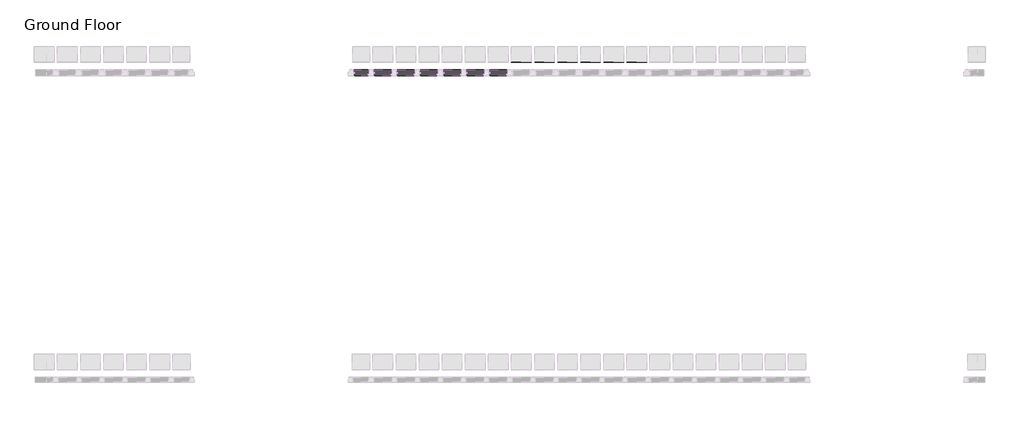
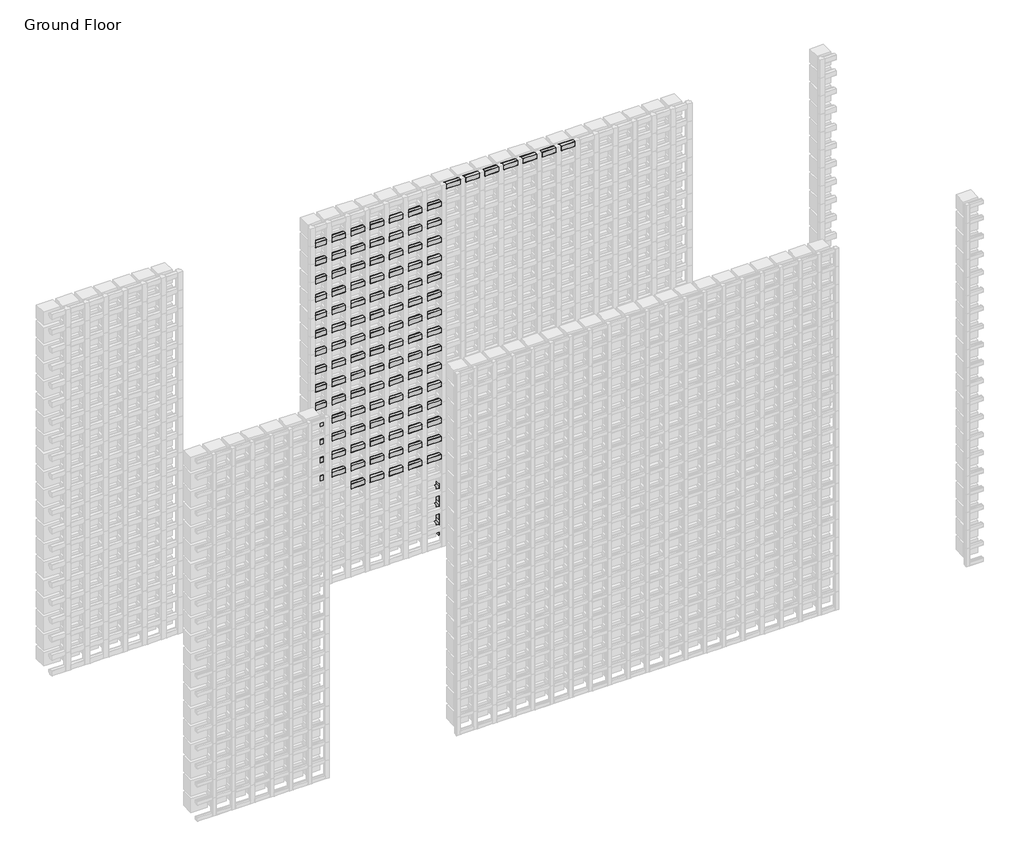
# One storey, part 120 of 350: 122 members, 20 plates.
"""IFC4 building model written with IfcOpenShell, lengths in millimetres."""

from ifc_helpers import new_model, si_unit, origin, place, context, project, spatial, transform, mapped, element, save
from components import rectangular_mullion_84e0df2e, rectangular_mullion_dacc5c26, rectangular_mullion_71680797, rectangular_mullion_196cc38a, rectangular_mullion_c1c7f7ba, empty_system_panel_empty_5a3607ba, empty_system_panel_empty_5e80e148

model = new_model("IFC4")

# Units and contexts
model_context = context("Model", 3, world=origin())
ifc_project = project(units=[si_unit("LENGTHUNIT", "METRE", prefix="MILLI")], contexts=[model_context])

# Site, building, storey
site = spatial("IfcSite", under=ifc_project)
building = spatial("IfcBuilding", under=site)
storey = spatial("IfcBuildingStorey", under=building, Name="Ground Floor", Elevation=0.0)

# Members
placement = place(None, origin())
rectangular_mullion_shape = rectangular_mullion_84e0df2e(model_context)
element("IfcMember", 1, ObjectType="Rectangular Mullion : Batten_Timber_Modinex_Austratus_Grid_Fin_40x40_Blackbutt", at=placement, inside=storey, context=model_context, shape_type="MappedRepresentation", body=[
    mapped(rectangular_mullion_shape, transform((7116.4361642, 44968.2978302, 0.0), x_axis=(1.0, 0.0, 0.0), y_axis=(0.0, -1.0, 0.0), z_axis=(0.0, 0.0, -1.0))),
])
element("IfcMember", 2, ObjectType="Rectangular Mullion : Batten_Timber_Modinex_Austratus_Grid_Fin_40x40_Blackbutt", at=placement, inside=storey, context=model_context, shape_type="MappedRepresentation", body=[
    mapped(rectangular_mullion_shape, transform((7266.4361642, 44968.2978302, 0.0), x_axis=(1.0, 0.0, 0.0), y_axis=(0.0, -1.0, 0.0), z_axis=(0.0, 0.0, -1.0))),
])
element("IfcMember", 3, ObjectType="Rectangular Mullion : Batten_Timber_Modinex_Austratus_Grid_Fin_40x40_Blackbutt", at=placement, inside=storey, context=model_context, shape_type="MappedRepresentation", body=[
    mapped(rectangular_mullion_shape, transform((7416.4361642, 44968.2978302, 0.0), x_axis=(1.0, 0.0, 0.0), y_axis=(0.0, -1.0, 0.0), z_axis=(0.0, 0.0, -1.0))),
])
element("IfcMember", 4, ObjectType="Rectangular Mullion : Batten_Timber_Modinex_Austratus_Grid_Fin_40x40_Blackbutt", at=placement, inside=storey, context=model_context, shape_type="MappedRepresentation", body=[
    mapped(rectangular_mullion_shape, transform((7566.4361642, 44968.2978302, 0.0), x_axis=(1.0, 0.0, 0.0), y_axis=(0.0, -1.0, 0.0), z_axis=(0.0, 0.0, -1.0))),
])
element("IfcMember", 5, ObjectType="Rectangular Mullion : Batten_Timber_Modinex_Austratus_Grid_Fin_40x40_Blackbutt", at=placement, inside=storey, context=model_context, shape_type="MappedRepresentation", body=[
    mapped(rectangular_mullion_shape, transform((7716.4361642, 44968.2978302, 0.0), x_axis=(1.0, 0.0, 0.0), y_axis=(0.0, -1.0, 0.0), z_axis=(0.0, 0.0, -1.0))),
])
element("IfcMember", 6, ObjectType="Rectangular Mullion : Batten_Timber_Modinex_Austratus_Grid_Fin_40x40_Blackbutt", at=placement, inside=storey, context=model_context, shape_type="MappedRepresentation", body=[
    mapped(rectangular_mullion_shape, transform((7866.4361642, 44968.2978302, 0.0), x_axis=(1.0, 0.0, 0.0), y_axis=(0.0, -1.0, 0.0), z_axis=(0.0, 0.0, -1.0))),
])
rectangular_mullion_2_shape = rectangular_mullion_dacc5c26(model_context)
element("IfcMember", 7, ObjectType="Rectangular Mullion : Batten_Timber_Modinex_Austratus_Grid_Fin_40x40_Blackbutt", at=placement, inside=storey, context=model_context, shape_type="MappedRepresentation", body=[
    mapped(rectangular_mullion_2_shape, transform((7096.4361642, 44968.2978302, 3000.0), x_axis=(0.0, 0.0, 1.0), y_axis=(0.0, -1.0, 0.0), z_axis=(1.0, 0.0, 0.0))),
])
element("IfcMember", 8, ObjectType="Rectangular Mullion : Batten_Timber_Modinex_Austratus_Grid_Fin_40x40_Blackbutt", at=placement, inside=storey, context=model_context, shape_type="MappedRepresentation", body=[
    mapped(rectangular_mullion_2_shape, transform((7246.4361642, 44968.2978302, 3000.0), x_axis=(0.0, 0.0, 1.0), y_axis=(0.0, -1.0, 0.0), z_axis=(1.0, 0.0, 0.0))),
])
element("IfcMember", 9, ObjectType="Rectangular Mullion : Batten_Timber_Modinex_Austratus_Grid_Fin_40x40_Blackbutt", at=placement, inside=storey, context=model_context, shape_type="MappedRepresentation", body=[
    mapped(rectangular_mullion_2_shape, transform((7396.4361642, 44968.2978302, 3000.0), x_axis=(0.0, 0.0, 1.0), y_axis=(0.0, -1.0, 0.0), z_axis=(1.0, 0.0, 0.0))),
])
element("IfcMember", 10, ObjectType="Rectangular Mullion : Batten_Timber_Modinex_Austratus_Grid_Fin_40x40_Blackbutt", at=placement, inside=storey, context=model_context, shape_type="MappedRepresentation", body=[
    mapped(rectangular_mullion_2_shape, transform((7546.4361642, 44968.2978302, 3000.0), x_axis=(0.0, 0.0, 1.0), y_axis=(0.0, -1.0, 0.0), z_axis=(1.0, 0.0, 0.0))),
])
element("IfcMember", 11, ObjectType="Rectangular Mullion : Batten_Timber_Modinex_Austratus_Grid_Fin_40x40_Blackbutt", at=placement, inside=storey, context=model_context, shape_type="MappedRepresentation", body=[
    mapped(rectangular_mullion_2_shape, transform((7696.4361642, 44968.2978302, 3000.0), x_axis=(0.0, 0.0, 1.0), y_axis=(0.0, -1.0, 0.0), z_axis=(1.0, 0.0, 0.0))),
])
element("IfcMember", 12, ObjectType="Rectangular Mullion : Batten_Timber_Modinex_Austratus_Grid_Fin_40x40_Blackbutt", at=placement, inside=storey, context=model_context, shape_type="MappedRepresentation", body=[
    mapped(rectangular_mullion_2_shape, transform((7846.4361642, 44968.2978302, 3000.0), x_axis=(0.0, 0.0, 1.0), y_axis=(0.0, -1.0, 0.0), z_axis=(1.0, 0.0, 0.0))),
])
element("IfcMember", 13, ObjectType="Rectangular Mullion : Batten_Timber_Modinex_Austratus_Grid_Fin_40x40_Blackbutt", at=placement, inside=storey, context=model_context, shape_type="MappedRepresentation", body=[
    mapped(rectangular_mullion_2_shape, transform((7996.4361642, 44968.2978302, 3000.0), x_axis=(0.0, 0.0, 1.0), y_axis=(0.0, -1.0, 0.0), z_axis=(1.0, 0.0, 0.0))),
])
rectangular_mullion_3_shape = rectangular_mullion_71680797(model_context)
element("IfcMember", 14, ObjectType="Rectangular Mullion : Batten_Timber_Modinex_Austratus_Grid_Fin_40x40_Blackbutt", at=placement, inside=storey, context=model_context, shape_type="MappedRepresentation", body=[
    mapped(rectangular_mullion_3_shape, transform((7136.4361642, 44968.2978302, 0.0), x_axis=(0.0, 0.0, -1.0), y_axis=(0.0, -1.0, 0.0), z_axis=(-1.0, 0.0, 0.0))),
])
element("IfcMember", 15, ObjectType="Rectangular Mullion : Batten_Timber_Modinex_Austratus_Grid_Fin_40x40_Blackbutt", at=placement, inside=storey, context=model_context, shape_type="MappedRepresentation", body=[
    mapped(rectangular_mullion_3_shape, transform((7286.4361642, 44968.2978302, 0.0), x_axis=(0.0, 0.0, -1.0), y_axis=(0.0, -1.0, 0.0), z_axis=(-1.0, 0.0, 0.0))),
])
element("IfcMember", 16, ObjectType="Rectangular Mullion : Batten_Timber_Modinex_Austratus_Grid_Fin_40x40_Blackbutt", at=placement, inside=storey, context=model_context, shape_type="MappedRepresentation", body=[
    mapped(rectangular_mullion_3_shape, transform((7436.4361642, 44968.2978302, 0.0), x_axis=(0.0, 0.0, -1.0), y_axis=(0.0, -1.0, 0.0), z_axis=(-1.0, 0.0, 0.0))),
])
element("IfcMember", 17, ObjectType="Rectangular Mullion : Batten_Timber_Modinex_Austratus_Grid_Fin_40x40_Blackbutt", at=placement, inside=storey, context=model_context, shape_type="MappedRepresentation", body=[
    mapped(rectangular_mullion_3_shape, transform((7586.4361642, 44968.2978302, 0.0), x_axis=(0.0, 0.0, -1.0), y_axis=(0.0, -1.0, 0.0), z_axis=(-1.0, 0.0, 0.0))),
])
element("IfcMember", 18, ObjectType="Rectangular Mullion : Batten_Timber_Modinex_Austratus_Grid_Fin_40x40_Blackbutt", at=placement, inside=storey, context=model_context, shape_type="MappedRepresentation", body=[
    mapped(rectangular_mullion_3_shape, transform((7736.4361642, 44968.2978302, 0.0), x_axis=(0.0, 0.0, -1.0), y_axis=(0.0, -1.0, 0.0), z_axis=(-1.0, 0.0, 0.0))),
])
element("IfcMember", 19, ObjectType="Rectangular Mullion : Batten_Timber_Modinex_Austratus_Grid_Fin_40x40_Blackbutt", at=placement, inside=storey, context=model_context, shape_type="MappedRepresentation", body=[
    mapped(rectangular_mullion_3_shape, transform((7886.4361642, 44968.2978302, 0.0), x_axis=(0.0, 0.0, -1.0), y_axis=(0.0, -1.0, 0.0), z_axis=(-1.0, 0.0, 0.0))),
])
rectangular_mullion_4_shape = rectangular_mullion_196cc38a(model_context)
element("IfcMember", 20, ObjectType="Rectangular Mullion : Batten_Timber_Modinex_Austratus_Grid_Fin_40x40_Blackbutt", at=placement, inside=storey, context=model_context, shape_type="MappedRepresentation", body=[
    mapped(rectangular_mullion_4_shape, transform((6046.4361642, 44968.2978302, 900.0), x_axis=(0.0, 0.0, 1.0), y_axis=(0.0, -1.0, 0.0), z_axis=(1.0, 0.0, 0.0))),
])
element("IfcMember", 21, ObjectType="Rectangular Mullion : Batten_Timber_Modinex_Austratus_Grid_Fin_40x40_Blackbutt", at=placement, inside=storey, context=model_context, shape_type="MappedRepresentation", body=[
    mapped(rectangular_mullion_4_shape, transform((6046.4361642, 44968.2978302, 1050.0), x_axis=(0.0, 0.0, 1.0), y_axis=(0.0, -1.0, 0.0), z_axis=(1.0, 0.0, 0.0))),
])
element("IfcMember", 22, ObjectType="Rectangular Mullion : Batten_Timber_Modinex_Austratus_Grid_Fin_40x40_Blackbutt", at=placement, inside=storey, context=model_context, shape_type="MappedRepresentation", body=[
    mapped(rectangular_mullion_4_shape, transform((6046.4361642, 44968.2978302, 1200.0), x_axis=(0.0, 0.0, 1.0), y_axis=(0.0, -1.0, 0.0), z_axis=(1.0, 0.0, 0.0))),
])
element("IfcMember", 23, ObjectType="Rectangular Mullion : Batten_Timber_Modinex_Austratus_Grid_Fin_40x40_Blackbutt", at=placement, inside=storey, context=model_context, shape_type="MappedRepresentation", body=[
    mapped(rectangular_mullion_4_shape, transform((6046.4361642, 44968.2978302, 1350.0), x_axis=(0.0, 0.0, 1.0), y_axis=(0.0, -1.0, 0.0), z_axis=(1.0, 0.0, 0.0))),
])
element("IfcMember", 24, ObjectType="Rectangular Mullion : Batten_Timber_Modinex_Austratus_Grid_Fin_40x40_Blackbutt", at=placement, inside=storey, context=model_context, shape_type="MappedRepresentation", body=[
    mapped(rectangular_mullion_4_shape, transform((6046.4361642, 44968.2978302, 1500.0), x_axis=(0.0, 0.0, 1.0), y_axis=(0.0, -1.0, 0.0), z_axis=(1.0, 0.0, 0.0))),
])
element("IfcMember", 25, ObjectType="Rectangular Mullion : Batten_Timber_Modinex_Austratus_Grid_Fin_40x40_Blackbutt", at=placement, inside=storey, context=model_context, shape_type="MappedRepresentation", body=[
    mapped(rectangular_mullion_4_shape, transform((6046.4361642, 44968.2978302, 1650.0), x_axis=(0.0, 0.0, 1.0), y_axis=(0.0, -1.0, 0.0), z_axis=(1.0, 0.0, 0.0))),
])
element("IfcMember", 26, ObjectType="Rectangular Mullion : Batten_Timber_Modinex_Austratus_Grid_Fin_40x40_Blackbutt", at=placement, inside=storey, context=model_context, shape_type="MappedRepresentation", body=[
    mapped(rectangular_mullion_4_shape, transform((6046.4361642, 44968.2978302, 1800.0), x_axis=(0.0, 0.0, 1.0), y_axis=(0.0, -1.0, 0.0), z_axis=(1.0, 0.0, 0.0))),
])
element("IfcMember", 27, ObjectType="Rectangular Mullion : Batten_Timber_Modinex_Austratus_Grid_Fin_40x40_Blackbutt", at=placement, inside=storey, context=model_context, shape_type="MappedRepresentation", body=[
    mapped(rectangular_mullion_4_shape, transform((6046.4361642, 44968.2978302, 1950.0), x_axis=(0.0, 0.0, 1.0), y_axis=(0.0, -1.0, 0.0), z_axis=(1.0, 0.0, 0.0))),
])
element("IfcMember", 28, ObjectType="Rectangular Mullion : Batten_Timber_Modinex_Austratus_Grid_Fin_40x40_Blackbutt", at=placement, inside=storey, context=model_context, shape_type="MappedRepresentation", body=[
    mapped(rectangular_mullion_4_shape, transform((6046.4361642, 44968.2978302, 2100.0), x_axis=(0.0, 0.0, 1.0), y_axis=(0.0, -1.0, 0.0), z_axis=(1.0, 0.0, 0.0))),
])
element("IfcMember", 29, ObjectType="Rectangular Mullion : Batten_Timber_Modinex_Austratus_Grid_Fin_40x40_Blackbutt", at=placement, inside=storey, context=model_context, shape_type="MappedRepresentation", body=[
    mapped(rectangular_mullion_4_shape, transform((6046.4361642, 44968.2978302, 2250.0), x_axis=(0.0, 0.0, 1.0), y_axis=(0.0, -1.0, 0.0), z_axis=(1.0, 0.0, 0.0))),
])
element("IfcMember", 30, ObjectType="Rectangular Mullion : Batten_Timber_Modinex_Austratus_Grid_Fin_40x40_Blackbutt", at=placement, inside=storey, context=model_context, shape_type="MappedRepresentation", body=[
    mapped(rectangular_mullion_4_shape, transform((6046.4361642, 44968.2978302, 2400.0), x_axis=(0.0, 0.0, 1.0), y_axis=(0.0, -1.0, 0.0), z_axis=(1.0, 0.0, 0.0))),
])
element("IfcMember", 31, ObjectType="Rectangular Mullion : Batten_Timber_Modinex_Austratus_Grid_Fin_40x40_Blackbutt", at=placement, inside=storey, context=model_context, shape_type="MappedRepresentation", body=[
    mapped(rectangular_mullion_4_shape, transform((6046.4361642, 44968.2978302, 2550.0), x_axis=(0.0, 0.0, 1.0), y_axis=(0.0, -1.0, 0.0), z_axis=(1.0, 0.0, 0.0))),
])
element("IfcMember", 32, ObjectType="Rectangular Mullion : Batten_Timber_Modinex_Austratus_Grid_Fin_40x40_Blackbutt", at=placement, inside=storey, context=model_context, shape_type="MappedRepresentation", body=[
    mapped(rectangular_mullion_4_shape, transform((6046.4361642, 44968.2978302, 2700.0), x_axis=(0.0, 0.0, 1.0), y_axis=(0.0, -1.0, 0.0), z_axis=(1.0, 0.0, 0.0))),
])
element("IfcMember", 33, ObjectType="Rectangular Mullion : Batten_Timber_Modinex_Austratus_Grid_Fin_40x40_Blackbutt", at=placement, inside=storey, context=model_context, shape_type="MappedRepresentation", body=[
    mapped(rectangular_mullion_4_shape, transform((6046.4361642, 44968.2978302, 2850.0), x_axis=(0.0, 0.0, 1.0), y_axis=(0.0, -1.0, 0.0), z_axis=(1.0, 0.0, 0.0))),
])
rectangular_mullion_5_shape = rectangular_mullion_c1c7f7ba(model_context)
element("IfcMember", 34, ObjectType="Rectangular Mullion : Batten_Timber_Modinex_Austratus_Grid_Fin_40x40_Blackbutt", at=placement, inside=storey, context=model_context, shape_type="MappedRepresentation", body=[
    mapped(rectangular_mullion_5_shape, transform((6346.4361642, 44968.2978302, 750.0), x_axis=(0.0, 0.0, 1.0), y_axis=(0.0, -1.0, 0.0), z_axis=(1.0, 0.0, 0.0))),
])
element("IfcMember", 35, ObjectType="Rectangular Mullion : Batten_Timber_Modinex_Austratus_Grid_Fin_40x40_Blackbutt", at=placement, inside=storey, context=model_context, shape_type="MappedRepresentation", body=[
    mapped(rectangular_mullion_5_shape, transform((6496.4361642, 44968.2978302, 750.0), x_axis=(0.0, 0.0, 1.0), y_axis=(0.0, -1.0, 0.0), z_axis=(1.0, 0.0, 0.0))),
])
element("IfcMember", 36, ObjectType="Rectangular Mullion : Batten_Timber_Modinex_Austratus_Grid_Fin_40x40_Blackbutt", at=placement, inside=storey, context=model_context, shape_type="MappedRepresentation", body=[
    mapped(rectangular_mullion_5_shape, transform((6646.4361642, 44968.2978302, 750.0), x_axis=(0.0, 0.0, 1.0), y_axis=(0.0, -1.0, 0.0), z_axis=(1.0, 0.0, 0.0))),
])
element("IfcMember", 37, ObjectType="Rectangular Mullion : Batten_Timber_Modinex_Austratus_Grid_Fin_40x40_Blackbutt", at=placement, inside=storey, context=model_context, shape_type="MappedRepresentation", body=[
    mapped(rectangular_mullion_5_shape, transform((6796.4361642, 44968.2978302, 750.0), x_axis=(0.0, 0.0, 1.0), y_axis=(0.0, -1.0, 0.0), z_axis=(1.0, 0.0, 0.0))),
])
element("IfcMember", 38, ObjectType="Rectangular Mullion : Batten_Timber_Modinex_Austratus_Grid_Fin_40x40_Blackbutt", at=placement, inside=storey, context=model_context, shape_type="MappedRepresentation", body=[
    mapped(rectangular_mullion_5_shape, transform((6946.4361642, 44968.2978302, 750.0), x_axis=(0.0, 0.0, 1.0), y_axis=(0.0, -1.0, 0.0), z_axis=(1.0, 0.0, 0.0))),
])
element("IfcMember", 39, ObjectType="Rectangular Mullion : Batten_Timber_Modinex_Austratus_Grid_Fin_40x40_Blackbutt", at=placement, inside=storey, context=model_context, shape_type="MappedRepresentation", body=[
    mapped(rectangular_mullion_5_shape, transform((6196.4361642, 44968.2978302, 900.0), x_axis=(0.0, 0.0, 1.0), y_axis=(0.0, -1.0, 0.0), z_axis=(1.0, 0.0, 0.0))),
])
element("IfcMember", 40, ObjectType="Rectangular Mullion : Batten_Timber_Modinex_Austratus_Grid_Fin_40x40_Blackbutt", at=placement, inside=storey, context=model_context, shape_type="MappedRepresentation", body=[
    mapped(rectangular_mullion_5_shape, transform((6346.4361642, 44968.2978302, 900.0), x_axis=(0.0, 0.0, 1.0), y_axis=(0.0, -1.0, 0.0), z_axis=(1.0, 0.0, 0.0))),
])
element("IfcMember", 41, ObjectType="Rectangular Mullion : Batten_Timber_Modinex_Austratus_Grid_Fin_40x40_Blackbutt", at=placement, inside=storey, context=model_context, shape_type="MappedRepresentation", body=[
    mapped(rectangular_mullion_5_shape, transform((6496.4361642, 44968.2978302, 900.0), x_axis=(0.0, 0.0, 1.0), y_axis=(0.0, -1.0, 0.0), z_axis=(1.0, 0.0, 0.0))),
])
element("IfcMember", 42, ObjectType="Rectangular Mullion : Batten_Timber_Modinex_Austratus_Grid_Fin_40x40_Blackbutt", at=placement, inside=storey, context=model_context, shape_type="MappedRepresentation", body=[
    mapped(rectangular_mullion_5_shape, transform((6646.4361642, 44968.2978302, 900.0), x_axis=(0.0, 0.0, 1.0), y_axis=(0.0, -1.0, 0.0), z_axis=(1.0, 0.0, 0.0))),
])
element("IfcMember", 43, ObjectType="Rectangular Mullion : Batten_Timber_Modinex_Austratus_Grid_Fin_40x40_Blackbutt", at=placement, inside=storey, context=model_context, shape_type="MappedRepresentation", body=[
    mapped(rectangular_mullion_5_shape, transform((6796.4361642, 44968.2978302, 900.0), x_axis=(0.0, 0.0, 1.0), y_axis=(0.0, -1.0, 0.0), z_axis=(1.0, 0.0, 0.0))),
])
element("IfcMember", 44, ObjectType="Rectangular Mullion : Batten_Timber_Modinex_Austratus_Grid_Fin_40x40_Blackbutt", at=placement, inside=storey, context=model_context, shape_type="MappedRepresentation", body=[
    mapped(rectangular_mullion_5_shape, transform((6946.4361642, 44968.2978302, 900.0), x_axis=(0.0, 0.0, 1.0), y_axis=(0.0, -1.0, 0.0), z_axis=(1.0, 0.0, 0.0))),
])
element("IfcMember", 45, ObjectType="Rectangular Mullion : Batten_Timber_Modinex_Austratus_Grid_Fin_40x40_Blackbutt", at=placement, inside=storey, context=model_context, shape_type="MappedRepresentation", body=[
    mapped(rectangular_mullion_5_shape, transform((6196.4361642, 44968.2978302, 1050.0), x_axis=(0.0, 0.0, 1.0), y_axis=(0.0, -1.0, 0.0), z_axis=(1.0, 0.0, 0.0))),
])
element("IfcMember", 46, ObjectType="Rectangular Mullion : Batten_Timber_Modinex_Austratus_Grid_Fin_40x40_Blackbutt", at=placement, inside=storey, context=model_context, shape_type="MappedRepresentation", body=[
    mapped(rectangular_mullion_5_shape, transform((6346.4361642, 44968.2978302, 1050.0), x_axis=(0.0, 0.0, 1.0), y_axis=(0.0, -1.0, 0.0), z_axis=(1.0, 0.0, 0.0))),
])
element("IfcMember", 47, ObjectType="Rectangular Mullion : Batten_Timber_Modinex_Austratus_Grid_Fin_40x40_Blackbutt", at=placement, inside=storey, context=model_context, shape_type="MappedRepresentation", body=[
    mapped(rectangular_mullion_5_shape, transform((6496.4361642, 44968.2978302, 1050.0), x_axis=(0.0, 0.0, 1.0), y_axis=(0.0, -1.0, 0.0), z_axis=(1.0, 0.0, 0.0))),
])
element("IfcMember", 48, ObjectType="Rectangular Mullion : Batten_Timber_Modinex_Austratus_Grid_Fin_40x40_Blackbutt", at=placement, inside=storey, context=model_context, shape_type="MappedRepresentation", body=[
    mapped(rectangular_mullion_5_shape, transform((6646.4361642, 44968.2978302, 1050.0), x_axis=(0.0, 0.0, 1.0), y_axis=(0.0, -1.0, 0.0), z_axis=(1.0, 0.0, 0.0))),
])
element("IfcMember", 49, ObjectType="Rectangular Mullion : Batten_Timber_Modinex_Austratus_Grid_Fin_40x40_Blackbutt", at=placement, inside=storey, context=model_context, shape_type="MappedRepresentation", body=[
    mapped(rectangular_mullion_5_shape, transform((6796.4361642, 44968.2978302, 1050.0), x_axis=(0.0, 0.0, 1.0), y_axis=(0.0, -1.0, 0.0), z_axis=(1.0, 0.0, 0.0))),
])
element("IfcMember", 50, ObjectType="Rectangular Mullion : Batten_Timber_Modinex_Austratus_Grid_Fin_40x40_Blackbutt", at=placement, inside=storey, context=model_context, shape_type="MappedRepresentation", body=[
    mapped(rectangular_mullion_5_shape, transform((6946.4361642, 44968.2978302, 1050.0), x_axis=(0.0, 0.0, 1.0), y_axis=(0.0, -1.0, 0.0), z_axis=(1.0, 0.0, 0.0))),
])
element("IfcMember", 51, ObjectType="Rectangular Mullion : Batten_Timber_Modinex_Austratus_Grid_Fin_40x40_Blackbutt", at=placement, inside=storey, context=model_context, shape_type="MappedRepresentation", body=[
    mapped(rectangular_mullion_5_shape, transform((6196.4361642, 44968.2978302, 1200.0), x_axis=(0.0, 0.0, 1.0), y_axis=(0.0, -1.0, 0.0), z_axis=(1.0, 0.0, 0.0))),
])
element("IfcMember", 52, ObjectType="Rectangular Mullion : Batten_Timber_Modinex_Austratus_Grid_Fin_40x40_Blackbutt", at=placement, inside=storey, context=model_context, shape_type="MappedRepresentation", body=[
    mapped(rectangular_mullion_5_shape, transform((6346.4361642, 44968.2978302, 1200.0), x_axis=(0.0, 0.0, 1.0), y_axis=(0.0, -1.0, 0.0), z_axis=(1.0, 0.0, 0.0))),
])
element("IfcMember", 53, ObjectType="Rectangular Mullion : Batten_Timber_Modinex_Austratus_Grid_Fin_40x40_Blackbutt", at=placement, inside=storey, context=model_context, shape_type="MappedRepresentation", body=[
    mapped(rectangular_mullion_5_shape, transform((6496.4361642, 44968.2978302, 1200.0), x_axis=(0.0, 0.0, 1.0), y_axis=(0.0, -1.0, 0.0), z_axis=(1.0, 0.0, 0.0))),
])
element("IfcMember", 54, ObjectType="Rectangular Mullion : Batten_Timber_Modinex_Austratus_Grid_Fin_40x40_Blackbutt", at=placement, inside=storey, context=model_context, shape_type="MappedRepresentation", body=[
    mapped(rectangular_mullion_5_shape, transform((6646.4361642, 44968.2978302, 1200.0), x_axis=(0.0, 0.0, 1.0), y_axis=(0.0, -1.0, 0.0), z_axis=(1.0, 0.0, 0.0))),
])
element("IfcMember", 55, ObjectType="Rectangular Mullion : Batten_Timber_Modinex_Austratus_Grid_Fin_40x40_Blackbutt", at=placement, inside=storey, context=model_context, shape_type="MappedRepresentation", body=[
    mapped(rectangular_mullion_5_shape, transform((6796.4361642, 44968.2978302, 1200.0), x_axis=(0.0, 0.0, 1.0), y_axis=(0.0, -1.0, 0.0), z_axis=(1.0, 0.0, 0.0))),
])
element("IfcMember", 56, ObjectType="Rectangular Mullion : Batten_Timber_Modinex_Austratus_Grid_Fin_40x40_Blackbutt", at=placement, inside=storey, context=model_context, shape_type="MappedRepresentation", body=[
    mapped(rectangular_mullion_5_shape, transform((6946.4361642, 44968.2978302, 1200.0), x_axis=(0.0, 0.0, 1.0), y_axis=(0.0, -1.0, 0.0), z_axis=(1.0, 0.0, 0.0))),
])
element("IfcMember", 57, ObjectType="Rectangular Mullion : Batten_Timber_Modinex_Austratus_Grid_Fin_40x40_Blackbutt", at=placement, inside=storey, context=model_context, shape_type="MappedRepresentation", body=[
    mapped(rectangular_mullion_5_shape, transform((6196.4361642, 44968.2978302, 1350.0), x_axis=(0.0, 0.0, 1.0), y_axis=(0.0, -1.0, 0.0), z_axis=(1.0, 0.0, 0.0))),
])
element("IfcMember", 58, ObjectType="Rectangular Mullion : Batten_Timber_Modinex_Austratus_Grid_Fin_40x40_Blackbutt", at=placement, inside=storey, context=model_context, shape_type="MappedRepresentation", body=[
    mapped(rectangular_mullion_5_shape, transform((6346.4361642, 44968.2978302, 1350.0), x_axis=(0.0, 0.0, 1.0), y_axis=(0.0, -1.0, 0.0), z_axis=(1.0, 0.0, 0.0))),
])
element("IfcMember", 59, ObjectType="Rectangular Mullion : Batten_Timber_Modinex_Austratus_Grid_Fin_40x40_Blackbutt", at=placement, inside=storey, context=model_context, shape_type="MappedRepresentation", body=[
    mapped(rectangular_mullion_5_shape, transform((6496.4361642, 44968.2978302, 1350.0), x_axis=(0.0, 0.0, 1.0), y_axis=(0.0, -1.0, 0.0), z_axis=(1.0, 0.0, 0.0))),
])
element("IfcMember", 60, ObjectType="Rectangular Mullion : Batten_Timber_Modinex_Austratus_Grid_Fin_40x40_Blackbutt", at=placement, inside=storey, context=model_context, shape_type="MappedRepresentation", body=[
    mapped(rectangular_mullion_5_shape, transform((6646.4361642, 44968.2978302, 1350.0), x_axis=(0.0, 0.0, 1.0), y_axis=(0.0, -1.0, 0.0), z_axis=(1.0, 0.0, 0.0))),
])
element("IfcMember", 61, ObjectType="Rectangular Mullion : Batten_Timber_Modinex_Austratus_Grid_Fin_40x40_Blackbutt", at=placement, inside=storey, context=model_context, shape_type="MappedRepresentation", body=[
    mapped(rectangular_mullion_5_shape, transform((6796.4361642, 44968.2978302, 1350.0), x_axis=(0.0, 0.0, 1.0), y_axis=(0.0, -1.0, 0.0), z_axis=(1.0, 0.0, 0.0))),
])
element("IfcMember", 62, ObjectType="Rectangular Mullion : Batten_Timber_Modinex_Austratus_Grid_Fin_40x40_Blackbutt", at=placement, inside=storey, context=model_context, shape_type="MappedRepresentation", body=[
    mapped(rectangular_mullion_5_shape, transform((6946.4361642, 44968.2978302, 1350.0), x_axis=(0.0, 0.0, 1.0), y_axis=(0.0, -1.0, 0.0), z_axis=(1.0, 0.0, 0.0))),
])
element("IfcMember", 63, ObjectType="Rectangular Mullion : Batten_Timber_Modinex_Austratus_Grid_Fin_40x40_Blackbutt", at=placement, inside=storey, context=model_context, shape_type="MappedRepresentation", body=[
    mapped(rectangular_mullion_5_shape, transform((6196.4361642, 44968.2978302, 1500.0), x_axis=(0.0, 0.0, 1.0), y_axis=(0.0, -1.0, 0.0), z_axis=(1.0, 0.0, 0.0))),
])
element("IfcMember", 64, ObjectType="Rectangular Mullion : Batten_Timber_Modinex_Austratus_Grid_Fin_40x40_Blackbutt", at=placement, inside=storey, context=model_context, shape_type="MappedRepresentation", body=[
    mapped(rectangular_mullion_5_shape, transform((6346.4361642, 44968.2978302, 1500.0), x_axis=(0.0, 0.0, 1.0), y_axis=(0.0, -1.0, 0.0), z_axis=(1.0, 0.0, 0.0))),
])
element("IfcMember", 65, ObjectType="Rectangular Mullion : Batten_Timber_Modinex_Austratus_Grid_Fin_40x40_Blackbutt", at=placement, inside=storey, context=model_context, shape_type="MappedRepresentation", body=[
    mapped(rectangular_mullion_5_shape, transform((6496.4361642, 44968.2978302, 1500.0), x_axis=(0.0, 0.0, 1.0), y_axis=(0.0, -1.0, 0.0), z_axis=(1.0, 0.0, 0.0))),
])
element("IfcMember", 66, ObjectType="Rectangular Mullion : Batten_Timber_Modinex_Austratus_Grid_Fin_40x40_Blackbutt", at=placement, inside=storey, context=model_context, shape_type="MappedRepresentation", body=[
    mapped(rectangular_mullion_5_shape, transform((6646.4361642, 44968.2978302, 1500.0), x_axis=(0.0, 0.0, 1.0), y_axis=(0.0, -1.0, 0.0), z_axis=(1.0, 0.0, 0.0))),
])
element("IfcMember", 67, ObjectType="Rectangular Mullion : Batten_Timber_Modinex_Austratus_Grid_Fin_40x40_Blackbutt", at=placement, inside=storey, context=model_context, shape_type="MappedRepresentation", body=[
    mapped(rectangular_mullion_5_shape, transform((6796.4361642, 44968.2978302, 1500.0), x_axis=(0.0, 0.0, 1.0), y_axis=(0.0, -1.0, 0.0), z_axis=(1.0, 0.0, 0.0))),
])
element("IfcMember", 68, ObjectType="Rectangular Mullion : Batten_Timber_Modinex_Austratus_Grid_Fin_40x40_Blackbutt", at=placement, inside=storey, context=model_context, shape_type="MappedRepresentation", body=[
    mapped(rectangular_mullion_5_shape, transform((6946.4361642, 44968.2978302, 1500.0), x_axis=(0.0, 0.0, 1.0), y_axis=(0.0, -1.0, 0.0), z_axis=(1.0, 0.0, 0.0))),
])
element("IfcMember", 69, ObjectType="Rectangular Mullion : Batten_Timber_Modinex_Austratus_Grid_Fin_40x40_Blackbutt", at=placement, inside=storey, context=model_context, shape_type="MappedRepresentation", body=[
    mapped(rectangular_mullion_5_shape, transform((6196.4361642, 44968.2978302, 1650.0), x_axis=(0.0, 0.0, 1.0), y_axis=(0.0, -1.0, 0.0), z_axis=(1.0, 0.0, 0.0))),
])
element("IfcMember", 70, ObjectType="Rectangular Mullion : Batten_Timber_Modinex_Austratus_Grid_Fin_40x40_Blackbutt", at=placement, inside=storey, context=model_context, shape_type="MappedRepresentation", body=[
    mapped(rectangular_mullion_5_shape, transform((6346.4361642, 44968.2978302, 1650.0), x_axis=(0.0, 0.0, 1.0), y_axis=(0.0, -1.0, 0.0), z_axis=(1.0, 0.0, 0.0))),
])
element("IfcMember", 71, ObjectType="Rectangular Mullion : Batten_Timber_Modinex_Austratus_Grid_Fin_40x40_Blackbutt", at=placement, inside=storey, context=model_context, shape_type="MappedRepresentation", body=[
    mapped(rectangular_mullion_5_shape, transform((6496.4361642, 44968.2978302, 1650.0), x_axis=(0.0, 0.0, 1.0), y_axis=(0.0, -1.0, 0.0), z_axis=(1.0, 0.0, 0.0))),
])
element("IfcMember", 72, ObjectType="Rectangular Mullion : Batten_Timber_Modinex_Austratus_Grid_Fin_40x40_Blackbutt", at=placement, inside=storey, context=model_context, shape_type="MappedRepresentation", body=[
    mapped(rectangular_mullion_5_shape, transform((6646.4361642, 44968.2978302, 1650.0), x_axis=(0.0, 0.0, 1.0), y_axis=(0.0, -1.0, 0.0), z_axis=(1.0, 0.0, 0.0))),
])
element("IfcMember", 73, ObjectType="Rectangular Mullion : Batten_Timber_Modinex_Austratus_Grid_Fin_40x40_Blackbutt", at=placement, inside=storey, context=model_context, shape_type="MappedRepresentation", body=[
    mapped(rectangular_mullion_5_shape, transform((6796.4361642, 44968.2978302, 1650.0), x_axis=(0.0, 0.0, 1.0), y_axis=(0.0, -1.0, 0.0), z_axis=(1.0, 0.0, 0.0))),
])
element("IfcMember", 74, ObjectType="Rectangular Mullion : Batten_Timber_Modinex_Austratus_Grid_Fin_40x40_Blackbutt", at=placement, inside=storey, context=model_context, shape_type="MappedRepresentation", body=[
    mapped(rectangular_mullion_5_shape, transform((6946.4361642, 44968.2978302, 1650.0), x_axis=(0.0, 0.0, 1.0), y_axis=(0.0, -1.0, 0.0), z_axis=(1.0, 0.0, 0.0))),
])
element("IfcMember", 75, ObjectType="Rectangular Mullion : Batten_Timber_Modinex_Austratus_Grid_Fin_40x40_Blackbutt", at=placement, inside=storey, context=model_context, shape_type="MappedRepresentation", body=[
    mapped(rectangular_mullion_5_shape, transform((6196.4361642, 44968.2978302, 1800.0), x_axis=(0.0, 0.0, 1.0), y_axis=(0.0, -1.0, 0.0), z_axis=(1.0, 0.0, 0.0))),
])
element("IfcMember", 76, ObjectType="Rectangular Mullion : Batten_Timber_Modinex_Austratus_Grid_Fin_40x40_Blackbutt", at=placement, inside=storey, context=model_context, shape_type="MappedRepresentation", body=[
    mapped(rectangular_mullion_5_shape, transform((6346.4361642, 44968.2978302, 1800.0), x_axis=(0.0, 0.0, 1.0), y_axis=(0.0, -1.0, 0.0), z_axis=(1.0, 0.0, 0.0))),
])
element("IfcMember", 77, ObjectType="Rectangular Mullion : Batten_Timber_Modinex_Austratus_Grid_Fin_40x40_Blackbutt", at=placement, inside=storey, context=model_context, shape_type="MappedRepresentation", body=[
    mapped(rectangular_mullion_5_shape, transform((6496.4361642, 44968.2978302, 1800.0), x_axis=(0.0, 0.0, 1.0), y_axis=(0.0, -1.0, 0.0), z_axis=(1.0, 0.0, 0.0))),
])
element("IfcMember", 78, ObjectType="Rectangular Mullion : Batten_Timber_Modinex_Austratus_Grid_Fin_40x40_Blackbutt", at=placement, inside=storey, context=model_context, shape_type="MappedRepresentation", body=[
    mapped(rectangular_mullion_5_shape, transform((6646.4361642, 44968.2978302, 1800.0), x_axis=(0.0, 0.0, 1.0), y_axis=(0.0, -1.0, 0.0), z_axis=(1.0, 0.0, 0.0))),
])
element("IfcMember", 79, ObjectType="Rectangular Mullion : Batten_Timber_Modinex_Austratus_Grid_Fin_40x40_Blackbutt", at=placement, inside=storey, context=model_context, shape_type="MappedRepresentation", body=[
    mapped(rectangular_mullion_5_shape, transform((6796.4361642, 44968.2978302, 1800.0), x_axis=(0.0, 0.0, 1.0), y_axis=(0.0, -1.0, 0.0), z_axis=(1.0, 0.0, 0.0))),
])
element("IfcMember", 80, ObjectType="Rectangular Mullion : Batten_Timber_Modinex_Austratus_Grid_Fin_40x40_Blackbutt", at=placement, inside=storey, context=model_context, shape_type="MappedRepresentation", body=[
    mapped(rectangular_mullion_5_shape, transform((6946.4361642, 44968.2978302, 1800.0), x_axis=(0.0, 0.0, 1.0), y_axis=(0.0, -1.0, 0.0), z_axis=(1.0, 0.0, 0.0))),
])
element("IfcMember", 81, ObjectType="Rectangular Mullion : Batten_Timber_Modinex_Austratus_Grid_Fin_40x40_Blackbutt", at=placement, inside=storey, context=model_context, shape_type="MappedRepresentation", body=[
    mapped(rectangular_mullion_5_shape, transform((6196.4361642, 44968.2978302, 1950.0), x_axis=(0.0, 0.0, 1.0), y_axis=(0.0, -1.0, 0.0), z_axis=(1.0, 0.0, 0.0))),
])
element("IfcMember", 82, ObjectType="Rectangular Mullion : Batten_Timber_Modinex_Austratus_Grid_Fin_40x40_Blackbutt", at=placement, inside=storey, context=model_context, shape_type="MappedRepresentation", body=[
    mapped(rectangular_mullion_5_shape, transform((6346.4361642, 44968.2978302, 1950.0), x_axis=(0.0, 0.0, 1.0), y_axis=(0.0, -1.0, 0.0), z_axis=(1.0, 0.0, 0.0))),
])
element("IfcMember", 83, ObjectType="Rectangular Mullion : Batten_Timber_Modinex_Austratus_Grid_Fin_40x40_Blackbutt", at=placement, inside=storey, context=model_context, shape_type="MappedRepresentation", body=[
    mapped(rectangular_mullion_5_shape, transform((6496.4361642, 44968.2978302, 1950.0), x_axis=(0.0, 0.0, 1.0), y_axis=(0.0, -1.0, 0.0), z_axis=(1.0, 0.0, 0.0))),
])
element("IfcMember", 84, ObjectType="Rectangular Mullion : Batten_Timber_Modinex_Austratus_Grid_Fin_40x40_Blackbutt", at=placement, inside=storey, context=model_context, shape_type="MappedRepresentation", body=[
    mapped(rectangular_mullion_5_shape, transform((6646.4361642, 44968.2978302, 1950.0), x_axis=(0.0, 0.0, 1.0), y_axis=(0.0, -1.0, 0.0), z_axis=(1.0, 0.0, 0.0))),
])
element("IfcMember", 85, ObjectType="Rectangular Mullion : Batten_Timber_Modinex_Austratus_Grid_Fin_40x40_Blackbutt", at=placement, inside=storey, context=model_context, shape_type="MappedRepresentation", body=[
    mapped(rectangular_mullion_5_shape, transform((6796.4361642, 44968.2978302, 1950.0), x_axis=(0.0, 0.0, 1.0), y_axis=(0.0, -1.0, 0.0), z_axis=(1.0, 0.0, 0.0))),
])
element("IfcMember", 86, ObjectType="Rectangular Mullion : Batten_Timber_Modinex_Austratus_Grid_Fin_40x40_Blackbutt", at=placement, inside=storey, context=model_context, shape_type="MappedRepresentation", body=[
    mapped(rectangular_mullion_5_shape, transform((6946.4361642, 44968.2978302, 1950.0), x_axis=(0.0, 0.0, 1.0), y_axis=(0.0, -1.0, 0.0), z_axis=(1.0, 0.0, 0.0))),
])
element("IfcMember", 87, ObjectType="Rectangular Mullion : Batten_Timber_Modinex_Austratus_Grid_Fin_40x40_Blackbutt", at=placement, inside=storey, context=model_context, shape_type="MappedRepresentation", body=[
    mapped(rectangular_mullion_5_shape, transform((6196.4361642, 44968.2978302, 2100.0), x_axis=(0.0, 0.0, 1.0), y_axis=(0.0, -1.0, 0.0), z_axis=(1.0, 0.0, 0.0))),
])
element("IfcMember", 88, ObjectType="Rectangular Mullion : Batten_Timber_Modinex_Austratus_Grid_Fin_40x40_Blackbutt", at=placement, inside=storey, context=model_context, shape_type="MappedRepresentation", body=[
    mapped(rectangular_mullion_5_shape, transform((6346.4361642, 44968.2978302, 2100.0), x_axis=(0.0, 0.0, 1.0), y_axis=(0.0, -1.0, 0.0), z_axis=(1.0, 0.0, 0.0))),
])
element("IfcMember", 89, ObjectType="Rectangular Mullion : Batten_Timber_Modinex_Austratus_Grid_Fin_40x40_Blackbutt", at=placement, inside=storey, context=model_context, shape_type="MappedRepresentation", body=[
    mapped(rectangular_mullion_5_shape, transform((6496.4361642, 44968.2978302, 2100.0), x_axis=(0.0, 0.0, 1.0), y_axis=(0.0, -1.0, 0.0), z_axis=(1.0, 0.0, 0.0))),
])
element("IfcMember", 90, ObjectType="Rectangular Mullion : Batten_Timber_Modinex_Austratus_Grid_Fin_40x40_Blackbutt", at=placement, inside=storey, context=model_context, shape_type="MappedRepresentation", body=[
    mapped(rectangular_mullion_5_shape, transform((6646.4361642, 44968.2978302, 2100.0), x_axis=(0.0, 0.0, 1.0), y_axis=(0.0, -1.0, 0.0), z_axis=(1.0, 0.0, 0.0))),
])
element("IfcMember", 91, ObjectType="Rectangular Mullion : Batten_Timber_Modinex_Austratus_Grid_Fin_40x40_Blackbutt", at=placement, inside=storey, context=model_context, shape_type="MappedRepresentation", body=[
    mapped(rectangular_mullion_5_shape, transform((6796.4361642, 44968.2978302, 2100.0), x_axis=(0.0, 0.0, 1.0), y_axis=(0.0, -1.0, 0.0), z_axis=(1.0, 0.0, 0.0))),
])
element("IfcMember", 92, ObjectType="Rectangular Mullion : Batten_Timber_Modinex_Austratus_Grid_Fin_40x40_Blackbutt", at=placement, inside=storey, context=model_context, shape_type="MappedRepresentation", body=[
    mapped(rectangular_mullion_5_shape, transform((6946.4361642, 44968.2978302, 2100.0), x_axis=(0.0, 0.0, 1.0), y_axis=(0.0, -1.0, 0.0), z_axis=(1.0, 0.0, 0.0))),
])
element("IfcMember", 93, ObjectType="Rectangular Mullion : Batten_Timber_Modinex_Austratus_Grid_Fin_40x40_Blackbutt", at=placement, inside=storey, context=model_context, shape_type="MappedRepresentation", body=[
    mapped(rectangular_mullion_5_shape, transform((6196.4361642, 44968.2978302, 2250.0), x_axis=(0.0, 0.0, 1.0), y_axis=(0.0, -1.0, 0.0), z_axis=(1.0, 0.0, 0.0))),
])
element("IfcMember", 94, ObjectType="Rectangular Mullion : Batten_Timber_Modinex_Austratus_Grid_Fin_40x40_Blackbutt", at=placement, inside=storey, context=model_context, shape_type="MappedRepresentation", body=[
    mapped(rectangular_mullion_5_shape, transform((6346.4361642, 44968.2978302, 2250.0), x_axis=(0.0, 0.0, 1.0), y_axis=(0.0, -1.0, 0.0), z_axis=(1.0, 0.0, 0.0))),
])
element("IfcMember", 95, ObjectType="Rectangular Mullion : Batten_Timber_Modinex_Austratus_Grid_Fin_40x40_Blackbutt", at=placement, inside=storey, context=model_context, shape_type="MappedRepresentation", body=[
    mapped(rectangular_mullion_5_shape, transform((6496.4361642, 44968.2978302, 2250.0), x_axis=(0.0, 0.0, 1.0), y_axis=(0.0, -1.0, 0.0), z_axis=(1.0, 0.0, 0.0))),
])
element("IfcMember", 96, ObjectType="Rectangular Mullion : Batten_Timber_Modinex_Austratus_Grid_Fin_40x40_Blackbutt", at=placement, inside=storey, context=model_context, shape_type="MappedRepresentation", body=[
    mapped(rectangular_mullion_5_shape, transform((6646.4361642, 44968.2978302, 2250.0), x_axis=(0.0, 0.0, 1.0), y_axis=(0.0, -1.0, 0.0), z_axis=(1.0, 0.0, 0.0))),
])
element("IfcMember", 97, ObjectType="Rectangular Mullion : Batten_Timber_Modinex_Austratus_Grid_Fin_40x40_Blackbutt", at=placement, inside=storey, context=model_context, shape_type="MappedRepresentation", body=[
    mapped(rectangular_mullion_5_shape, transform((6796.4361642, 44968.2978302, 2250.0), x_axis=(0.0, 0.0, 1.0), y_axis=(0.0, -1.0, 0.0), z_axis=(1.0, 0.0, 0.0))),
])
element("IfcMember", 98, ObjectType="Rectangular Mullion : Batten_Timber_Modinex_Austratus_Grid_Fin_40x40_Blackbutt", at=placement, inside=storey, context=model_context, shape_type="MappedRepresentation", body=[
    mapped(rectangular_mullion_5_shape, transform((6946.4361642, 44968.2978302, 2250.0), x_axis=(0.0, 0.0, 1.0), y_axis=(0.0, -1.0, 0.0), z_axis=(1.0, 0.0, 0.0))),
])
element("IfcMember", 99, ObjectType="Rectangular Mullion : Batten_Timber_Modinex_Austratus_Grid_Fin_40x40_Blackbutt", at=placement, inside=storey, context=model_context, shape_type="MappedRepresentation", body=[
    mapped(rectangular_mullion_5_shape, transform((6196.4361642, 44968.2978302, 2400.0), x_axis=(0.0, 0.0, 1.0), y_axis=(0.0, -1.0, 0.0), z_axis=(1.0, 0.0, 0.0))),
])
element("IfcMember", 100, ObjectType="Rectangular Mullion : Batten_Timber_Modinex_Austratus_Grid_Fin_40x40_Blackbutt", at=placement, inside=storey, context=model_context, shape_type="MappedRepresentation", body=[
    mapped(rectangular_mullion_5_shape, transform((6346.4361642, 44968.2978302, 2400.0), x_axis=(0.0, 0.0, 1.0), y_axis=(0.0, -1.0, 0.0), z_axis=(1.0, 0.0, 0.0))),
])
element("IfcMember", 101, ObjectType="Rectangular Mullion : Batten_Timber_Modinex_Austratus_Grid_Fin_40x40_Blackbutt", at=placement, inside=storey, context=model_context, shape_type="MappedRepresentation", body=[
    mapped(rectangular_mullion_5_shape, transform((6496.4361642, 44968.2978302, 2400.0), x_axis=(0.0, 0.0, 1.0), y_axis=(0.0, -1.0, 0.0), z_axis=(1.0, 0.0, 0.0))),
])
element("IfcMember", 102, ObjectType="Rectangular Mullion : Batten_Timber_Modinex_Austratus_Grid_Fin_40x40_Blackbutt", at=placement, inside=storey, context=model_context, shape_type="MappedRepresentation", body=[
    mapped(rectangular_mullion_5_shape, transform((6646.4361642, 44968.2978302, 2400.0), x_axis=(0.0, 0.0, 1.0), y_axis=(0.0, -1.0, 0.0), z_axis=(1.0, 0.0, 0.0))),
])
element("IfcMember", 103, ObjectType="Rectangular Mullion : Batten_Timber_Modinex_Austratus_Grid_Fin_40x40_Blackbutt", at=placement, inside=storey, context=model_context, shape_type="MappedRepresentation", body=[
    mapped(rectangular_mullion_5_shape, transform((6796.4361642, 44968.2978302, 2400.0), x_axis=(0.0, 0.0, 1.0), y_axis=(0.0, -1.0, 0.0), z_axis=(1.0, 0.0, 0.0))),
])
element("IfcMember", 104, ObjectType="Rectangular Mullion : Batten_Timber_Modinex_Austratus_Grid_Fin_40x40_Blackbutt", at=placement, inside=storey, context=model_context, shape_type="MappedRepresentation", body=[
    mapped(rectangular_mullion_5_shape, transform((6946.4361642, 44968.2978302, 2400.0), x_axis=(0.0, 0.0, 1.0), y_axis=(0.0, -1.0, 0.0), z_axis=(1.0, 0.0, 0.0))),
])
element("IfcMember", 105, ObjectType="Rectangular Mullion : Batten_Timber_Modinex_Austratus_Grid_Fin_40x40_Blackbutt", at=placement, inside=storey, context=model_context, shape_type="MappedRepresentation", body=[
    mapped(rectangular_mullion_5_shape, transform((6196.4361642, 44968.2978302, 2550.0), x_axis=(0.0, 0.0, 1.0), y_axis=(0.0, -1.0, 0.0), z_axis=(1.0, 0.0, 0.0))),
])
element("IfcMember", 106, ObjectType="Rectangular Mullion : Batten_Timber_Modinex_Austratus_Grid_Fin_40x40_Blackbutt", at=placement, inside=storey, context=model_context, shape_type="MappedRepresentation", body=[
    mapped(rectangular_mullion_5_shape, transform((6346.4361642, 44968.2978302, 2550.0), x_axis=(0.0, 0.0, 1.0), y_axis=(0.0, -1.0, 0.0), z_axis=(1.0, 0.0, 0.0))),
])
element("IfcMember", 107, ObjectType="Rectangular Mullion : Batten_Timber_Modinex_Austratus_Grid_Fin_40x40_Blackbutt", at=placement, inside=storey, context=model_context, shape_type="MappedRepresentation", body=[
    mapped(rectangular_mullion_5_shape, transform((6496.4361642, 44968.2978302, 2550.0), x_axis=(0.0, 0.0, 1.0), y_axis=(0.0, -1.0, 0.0), z_axis=(1.0, 0.0, 0.0))),
])
element("IfcMember", 108, ObjectType="Rectangular Mullion : Batten_Timber_Modinex_Austratus_Grid_Fin_40x40_Blackbutt", at=placement, inside=storey, context=model_context, shape_type="MappedRepresentation", body=[
    mapped(rectangular_mullion_5_shape, transform((6646.4361642, 44968.2978302, 2550.0), x_axis=(0.0, 0.0, 1.0), y_axis=(0.0, -1.0, 0.0), z_axis=(1.0, 0.0, 0.0))),
])
element("IfcMember", 109, ObjectType="Rectangular Mullion : Batten_Timber_Modinex_Austratus_Grid_Fin_40x40_Blackbutt", at=placement, inside=storey, context=model_context, shape_type="MappedRepresentation", body=[
    mapped(rectangular_mullion_5_shape, transform((6796.4361642, 44968.2978302, 2550.0), x_axis=(0.0, 0.0, 1.0), y_axis=(0.0, -1.0, 0.0), z_axis=(1.0, 0.0, 0.0))),
])
element("IfcMember", 110, ObjectType="Rectangular Mullion : Batten_Timber_Modinex_Austratus_Grid_Fin_40x40_Blackbutt", at=placement, inside=storey, context=model_context, shape_type="MappedRepresentation", body=[
    mapped(rectangular_mullion_5_shape, transform((6946.4361642, 44968.2978302, 2550.0), x_axis=(0.0, 0.0, 1.0), y_axis=(0.0, -1.0, 0.0), z_axis=(1.0, 0.0, 0.0))),
])
element("IfcMember", 111, ObjectType="Rectangular Mullion : Batten_Timber_Modinex_Austratus_Grid_Fin_40x40_Blackbutt", at=placement, inside=storey, context=model_context, shape_type="MappedRepresentation", body=[
    mapped(rectangular_mullion_5_shape, transform((6196.4361642, 44968.2978302, 2700.0), x_axis=(0.0, 0.0, 1.0), y_axis=(0.0, -1.0, 0.0), z_axis=(1.0, 0.0, 0.0))),
])
element("IfcMember", 112, ObjectType="Rectangular Mullion : Batten_Timber_Modinex_Austratus_Grid_Fin_40x40_Blackbutt", at=placement, inside=storey, context=model_context, shape_type="MappedRepresentation", body=[
    mapped(rectangular_mullion_5_shape, transform((6346.4361642, 44968.2978302, 2700.0), x_axis=(0.0, 0.0, 1.0), y_axis=(0.0, -1.0, 0.0), z_axis=(1.0, 0.0, 0.0))),
])
element("IfcMember", 113, ObjectType="Rectangular Mullion : Batten_Timber_Modinex_Austratus_Grid_Fin_40x40_Blackbutt", at=placement, inside=storey, context=model_context, shape_type="MappedRepresentation", body=[
    mapped(rectangular_mullion_5_shape, transform((6496.4361642, 44968.2978302, 2700.0), x_axis=(0.0, 0.0, 1.0), y_axis=(0.0, -1.0, 0.0), z_axis=(1.0, 0.0, 0.0))),
])
element("IfcMember", 114, ObjectType="Rectangular Mullion : Batten_Timber_Modinex_Austratus_Grid_Fin_40x40_Blackbutt", at=placement, inside=storey, context=model_context, shape_type="MappedRepresentation", body=[
    mapped(rectangular_mullion_5_shape, transform((6646.4361642, 44968.2978302, 2700.0), x_axis=(0.0, 0.0, 1.0), y_axis=(0.0, -1.0, 0.0), z_axis=(1.0, 0.0, 0.0))),
])
element("IfcMember", 115, ObjectType="Rectangular Mullion : Batten_Timber_Modinex_Austratus_Grid_Fin_40x40_Blackbutt", at=placement, inside=storey, context=model_context, shape_type="MappedRepresentation", body=[
    mapped(rectangular_mullion_5_shape, transform((6796.4361642, 44968.2978302, 2700.0), x_axis=(0.0, 0.0, 1.0), y_axis=(0.0, -1.0, 0.0), z_axis=(1.0, 0.0, 0.0))),
])
element("IfcMember", 116, ObjectType="Rectangular Mullion : Batten_Timber_Modinex_Austratus_Grid_Fin_40x40_Blackbutt", at=placement, inside=storey, context=model_context, shape_type="MappedRepresentation", body=[
    mapped(rectangular_mullion_5_shape, transform((6946.4361642, 44968.2978302, 2700.0), x_axis=(0.0, 0.0, 1.0), y_axis=(0.0, -1.0, 0.0), z_axis=(1.0, 0.0, 0.0))),
])
element("IfcMember", 117, ObjectType="Rectangular Mullion : Batten_Timber_Modinex_Austratus_Grid_Fin_40x40_Blackbutt", at=placement, inside=storey, context=model_context, shape_type="MappedRepresentation", body=[
    mapped(rectangular_mullion_5_shape, transform((6196.4361642, 44968.2978302, 2850.0), x_axis=(0.0, 0.0, 1.0), y_axis=(0.0, -1.0, 0.0), z_axis=(1.0, 0.0, 0.0))),
])
element("IfcMember", 118, ObjectType="Rectangular Mullion : Batten_Timber_Modinex_Austratus_Grid_Fin_40x40_Blackbutt", at=placement, inside=storey, context=model_context, shape_type="MappedRepresentation", body=[
    mapped(rectangular_mullion_5_shape, transform((6346.4361642, 44968.2978302, 2850.0), x_axis=(0.0, 0.0, 1.0), y_axis=(0.0, -1.0, 0.0), z_axis=(1.0, 0.0, 0.0))),
])
element("IfcMember", 119, ObjectType="Rectangular Mullion : Batten_Timber_Modinex_Austratus_Grid_Fin_40x40_Blackbutt", at=placement, inside=storey, context=model_context, shape_type="MappedRepresentation", body=[
    mapped(rectangular_mullion_5_shape, transform((6496.4361642, 44968.2978302, 2850.0), x_axis=(0.0, 0.0, 1.0), y_axis=(0.0, -1.0, 0.0), z_axis=(1.0, 0.0, 0.0))),
])
element("IfcMember", 120, ObjectType="Rectangular Mullion : Batten_Timber_Modinex_Austratus_Grid_Fin_40x40_Blackbutt", at=placement, inside=storey, context=model_context, shape_type="MappedRepresentation", body=[
    mapped(rectangular_mullion_5_shape, transform((6646.4361642, 44968.2978302, 2850.0), x_axis=(0.0, 0.0, 1.0), y_axis=(0.0, -1.0, 0.0), z_axis=(1.0, 0.0, 0.0))),
])
element("IfcMember", 121, ObjectType="Rectangular Mullion : Batten_Timber_Modinex_Austratus_Grid_Fin_40x40_Blackbutt", at=placement, inside=storey, context=model_context, shape_type="MappedRepresentation", body=[
    mapped(rectangular_mullion_5_shape, transform((6796.4361642, 44968.2978302, 2850.0), x_axis=(0.0, 0.0, 1.0), y_axis=(0.0, -1.0, 0.0), z_axis=(1.0, 0.0, 0.0))),
])
element("IfcMember", 122, ObjectType="Rectangular Mullion : Batten_Timber_Modinex_Austratus_Grid_Fin_40x40_Blackbutt", at=placement, inside=storey, context=model_context, shape_type="MappedRepresentation", body=[
    mapped(rectangular_mullion_5_shape, transform((6946.4361642, 44968.2978302, 2850.0), x_axis=(0.0, 0.0, 1.0), y_axis=(0.0, -1.0, 0.0), z_axis=(1.0, 0.0, 0.0))),
])

# Plates
empty_system_panel_empty_shape = empty_system_panel_empty_5a3607ba(model_context)
element("IfcPlate", 123, ObjectType="Empty System Panel : Empty", at=placement, inside=storey, context=model_context, shape_type="MappedRepresentation", body=[
    mapped(empty_system_panel_empty_shape, transform((7041.4361642, 44968.2978302, 160.812195), x_axis=(1.0, 0.0, 0.0), y_axis=(0.0, 1.0, 0.0), z_axis=(0.0, 0.0, 1.0))),
])
element("IfcPlate", 124, ObjectType="Empty System Panel : Empty", at=placement, inside=storey, context=model_context, shape_type="MappedRepresentation", body=[
    mapped(empty_system_panel_empty_shape, transform((7191.4361642, 44968.2978302, 160.812195), x_axis=(1.0, 0.0, 0.0), y_axis=(0.0, 1.0, 0.0), z_axis=(0.0, 0.0, 1.0))),
])
element("IfcPlate", 125, ObjectType="Empty System Panel : Empty", at=placement, inside=storey, context=model_context, shape_type="MappedRepresentation", body=[
    mapped(empty_system_panel_empty_shape, transform((7341.4361642, 44968.2978302, 160.812195), x_axis=(1.0, 0.0, 0.0), y_axis=(0.0, 1.0, 0.0), z_axis=(0.0, 0.0, 1.0))),
])
element("IfcPlate", 126, ObjectType="Empty System Panel : Empty", at=placement, inside=storey, context=model_context, shape_type="MappedRepresentation", body=[
    mapped(empty_system_panel_empty_shape, transform((7491.4361642, 44968.2978302, 160.812195), x_axis=(1.0, 0.0, 0.0), y_axis=(0.0, 1.0, 0.0), z_axis=(0.0, 0.0, 1.0))),
])
element("IfcPlate", 127, ObjectType="Empty System Panel : Empty", at=placement, inside=storey, context=model_context, shape_type="MappedRepresentation", body=[
    mapped(empty_system_panel_empty_shape, transform((7641.4361642, 44968.2978302, 160.812195), x_axis=(1.0, 0.0, 0.0), y_axis=(0.0, 1.0, 0.0), z_axis=(0.0, 0.0, 1.0))),
])
element("IfcPlate", 128, ObjectType="Empty System Panel : Empty", at=placement, inside=storey, context=model_context, shape_type="MappedRepresentation", body=[
    mapped(empty_system_panel_empty_shape, transform((7791.4361642, 44968.2978302, 160.812195), x_axis=(1.0, 0.0, 0.0), y_axis=(0.0, 1.0, 0.0), z_axis=(0.0, 0.0, 1.0))),
])
element("IfcPlate", 129, ObjectType="Empty System Panel : Empty", at=placement, inside=storey, context=model_context, shape_type="MappedRepresentation", body=[
    mapped(empty_system_panel_empty_shape, transform((7941.4361642, 44968.2978302, 160.812195), x_axis=(1.0, 0.0, 0.0), y_axis=(0.0, 1.0, 0.0), z_axis=(0.0, 0.0, 1.0))),
])
element("IfcPlate", 130, ObjectType="Empty System Panel : Empty", at=placement, inside=storey, context=model_context, shape_type="MappedRepresentation", body=[
    mapped(empty_system_panel_empty_shape, transform((7041.4361642, 44968.2978302, 310.812195), x_axis=(1.0, 0.0, 0.0), y_axis=(0.0, 1.0, 0.0), z_axis=(0.0, 0.0, 1.0))),
])
element("IfcPlate", 131, ObjectType="Empty System Panel : Empty", at=placement, inside=storey, context=model_context, shape_type="MappedRepresentation", body=[
    mapped(empty_system_panel_empty_shape, transform((7191.4361642, 44968.2978302, 310.812195), x_axis=(1.0, 0.0, 0.0), y_axis=(0.0, 1.0, 0.0), z_axis=(0.0, 0.0, 1.0))),
])
element("IfcPlate", 132, ObjectType="Empty System Panel : Empty", at=placement, inside=storey, context=model_context, shape_type="MappedRepresentation", body=[
    mapped(empty_system_panel_empty_shape, transform((7341.4361642, 44968.2978302, 310.812195), x_axis=(1.0, 0.0, 0.0), y_axis=(0.0, 1.0, 0.0), z_axis=(0.0, 0.0, 1.0))),
])
element("IfcPlate", 133, ObjectType="Empty System Panel : Empty", at=placement, inside=storey, context=model_context, shape_type="MappedRepresentation", body=[
    mapped(empty_system_panel_empty_shape, transform((7491.4361642, 44968.2978302, 310.812195), x_axis=(1.0, 0.0, 0.0), y_axis=(0.0, 1.0, 0.0), z_axis=(0.0, 0.0, 1.0))),
])
element("IfcPlate", 134, ObjectType="Empty System Panel : Empty", at=placement, inside=storey, context=model_context, shape_type="MappedRepresentation", body=[
    mapped(empty_system_panel_empty_shape, transform((7641.4361642, 44968.2978302, 310.812195), x_axis=(1.0, 0.0, 0.0), y_axis=(0.0, 1.0, 0.0), z_axis=(0.0, 0.0, 1.0))),
])
element("IfcPlate", 135, ObjectType="Empty System Panel : Empty", at=placement, inside=storey, context=model_context, shape_type="MappedRepresentation", body=[
    mapped(empty_system_panel_empty_shape, transform((7791.4361642, 44968.2978302, 310.812195), x_axis=(1.0, 0.0, 0.0), y_axis=(0.0, 1.0, 0.0), z_axis=(0.0, 0.0, 1.0))),
])
empty_system_panel_empty_2_shape = empty_system_panel_empty_5e80e148(model_context)
element("IfcPlate", 136, ObjectType="Empty System Panel : Empty", at=placement, inside=storey, context=model_context, shape_type="MappedRepresentation", body=[
    mapped(empty_system_panel_empty_2_shape, transform((7041.4361642, 44968.2978302, 30.812195), x_axis=(1.0, 0.0, 0.0), y_axis=(0.0, 1.0, 0.0), z_axis=(0.0, 0.0, 1.0))),
])
element("IfcPlate", 137, ObjectType="Empty System Panel : Empty", at=placement, inside=storey, context=model_context, shape_type="MappedRepresentation", body=[
    mapped(empty_system_panel_empty_2_shape, transform((7191.4361642, 44968.2978302, 30.812195), x_axis=(1.0, 0.0, 0.0), y_axis=(0.0, 1.0, 0.0), z_axis=(0.0, 0.0, 1.0))),
])
element("IfcPlate", 138, ObjectType="Empty System Panel : Empty", at=placement, inside=storey, context=model_context, shape_type="MappedRepresentation", body=[
    mapped(empty_system_panel_empty_2_shape, transform((7341.4361642, 44968.2978302, 30.812195), x_axis=(1.0, 0.0, 0.0), y_axis=(0.0, 1.0, 0.0), z_axis=(0.0, 0.0, 1.0))),
])
element("IfcPlate", 139, ObjectType="Empty System Panel : Empty", at=placement, inside=storey, context=model_context, shape_type="MappedRepresentation", body=[
    mapped(empty_system_panel_empty_2_shape, transform((7491.4361642, 44968.2978302, 30.812195), x_axis=(1.0, 0.0, 0.0), y_axis=(0.0, 1.0, 0.0), z_axis=(0.0, 0.0, 1.0))),
])
element("IfcPlate", 140, ObjectType="Empty System Panel : Empty", at=placement, inside=storey, context=model_context, shape_type="MappedRepresentation", body=[
    mapped(empty_system_panel_empty_2_shape, transform((7641.4361642, 44968.2978302, 30.812195), x_axis=(1.0, 0.0, 0.0), y_axis=(0.0, 1.0, 0.0), z_axis=(0.0, 0.0, 1.0))),
])
element("IfcPlate", 141, ObjectType="Empty System Panel : Empty", at=placement, inside=storey, context=model_context, shape_type="MappedRepresentation", body=[
    mapped(empty_system_panel_empty_2_shape, transform((7791.4361642, 44968.2978302, 30.812195), x_axis=(1.0, 0.0, 0.0), y_axis=(0.0, 1.0, 0.0), z_axis=(0.0, 0.0, 1.0))),
])
element("IfcPlate", 142, ObjectType="Empty System Panel : Empty", at=placement, inside=storey, context=model_context, shape_type="MappedRepresentation", body=[
    mapped(empty_system_panel_empty_2_shape, transform((7941.4361642, 44968.2978302, 30.812195), x_axis=(1.0, 0.0, 0.0), y_axis=(0.0, 1.0, 0.0), z_axis=(0.0, 0.0, 1.0))),
])

save(model, "model.ifc")
